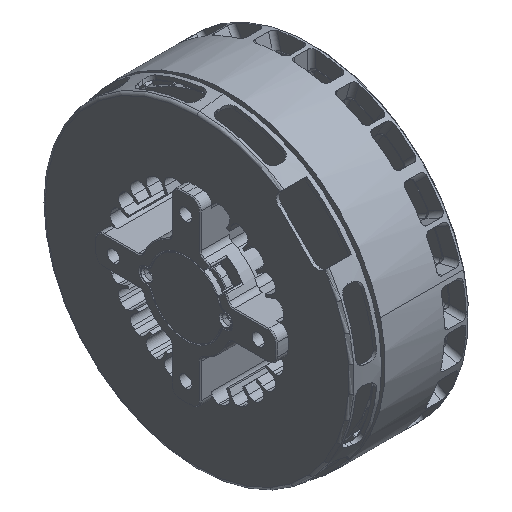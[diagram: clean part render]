
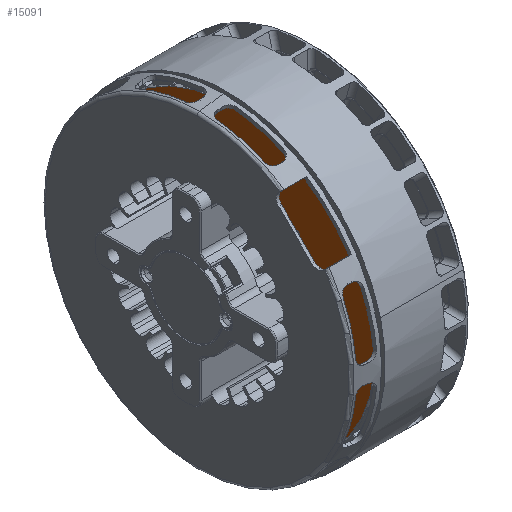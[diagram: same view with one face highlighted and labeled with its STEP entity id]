
A CAD part, isometric view. The second image highlights one B-rep face of the part: STEP entity #15091.
In plain terms, the highlighted planar face has unit normal (-1, 0, 0).
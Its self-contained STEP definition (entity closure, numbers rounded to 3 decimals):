
#1974 = DIRECTION ( 'NONE',  ( 1., 0., 0. ) ) ;
#3487 = CIRCLE ( 'NONE', #132456, 1. ) ;
#3593 = VERTEX_POINT ( 'NONE', #127783 ) ;
#3938 = CIRCLE ( 'NONE', #135246, 50. ) ;
#4117 = EDGE_CURVE ( 'NONE', #118354, #31275, #10883, .T. ) ;
#4432 = DIRECTION ( 'NONE',  ( 0., -0.707, -0.707 ) ) ;
#4865 = DIRECTION ( 'NONE',  ( -1., 0., 0. ) ) ;
#5597 = DIRECTION ( 'NONE',  ( 0., -0.707, -0.707 ) ) ;
#6307 = CARTESIAN_POINT ( 'NONE',  ( 15.4, 0., 0. ) ) ;
#7044 = CIRCLE ( 'NONE', #25131, 1. ) ;
#8869 = CARTESIAN_POINT ( 'NONE',  ( 15.4, 22.981, -22.981 ) ) ;
#10883 = CIRCLE ( 'NONE', #85604, 1. ) ;
#11166 = ORIENTED_EDGE ( 'NONE', *, *, #95229, .T. ) ;
#12491 = CARTESIAN_POINT ( 'NONE',  ( 15.4, 0., 33. ) ) ;
#12620 = CIRCLE ( 'NONE', #62408, 50. ) ;
#13866 = AXIS2_PLACEMENT_3D ( 'NONE', #92087, #70791, #82842 ) ;
#15091 = ADVANCED_FACE ( 'NONE', ( #39528, #59464 ), #102665, .F. ) ;
#18276 = CARTESIAN_POINT ( 'NONE',  ( 15.4, -23.943, 22.709 ) ) ;
#20325 = CARTESIAN_POINT ( 'NONE',  ( 15.4, 0., 0. ) ) ;
#22692 = CARTESIAN_POINT ( 'NONE',  ( 15.4, -22.981, 23.981 ) ) ;
#23342 = DIRECTION ( 'NONE',  ( -1., 0., 0. ) ) ;
#24944 = EDGE_CURVE ( 'NONE', #33446, #3593, #3938, .T. ) ;
#25131 = AXIS2_PLACEMENT_3D ( 'NONE', #112164, #122104, #4432 ) ;
#25969 = VERTEX_POINT ( 'NONE', #22692 ) ;
#27986 = DIRECTION ( 'NONE',  ( 0., -0.707, -0.707 ) ) ;
#28230 = ORIENTED_EDGE ( 'NONE', *, *, #4117, .T. ) ;
#29425 = DIRECTION ( 'NONE',  ( 0., -0.707, -0.707 ) ) ;
#31275 = VERTEX_POINT ( 'NONE', #75121 ) ;
#33362 = CARTESIAN_POINT ( 'NONE',  ( 15.4, 22.709, -23.943 ) ) ;
#33446 = VERTEX_POINT ( 'NONE', #64250 ) ;
#35720 = VERTEX_POINT ( 'NONE', #18276 ) ;
#36070 = DIRECTION ( 'NONE',  ( 1., 0., 0. ) ) ;
#36919 = ORIENTED_EDGE ( 'NONE', *, *, #62207, .F. ) ;
#39122 = AXIS2_PLACEMENT_3D ( 'NONE', #123915, #4865, #48075 ) ;
#39347 = DIRECTION ( 'NONE',  ( 1., 0., 0. ) ) ;
#39528 = FACE_OUTER_BOUND ( 'NONE', #42705, .T. ) ;
#42490 = EDGE_CURVE ( 'NONE', #49808, #53937, #129015, .T. ) ;
#42705 = EDGE_LOOP ( 'NONE', ( #54267, #36919 ) ) ;
#43080 = CIRCLE ( 'NONE', #67987, 33. ) ;
#47837 = DIRECTION ( 'NONE',  ( 1., 0., 0. ) ) ;
#48075 = DIRECTION ( 'NONE',  ( 0., 0., 1. ) ) ;
#49232 = CARTESIAN_POINT ( 'NONE',  ( 15.4, -22.981, 22.981 ) ) ;
#49808 = VERTEX_POINT ( 'NONE', #78426 ) ;
#50271 = CIRCLE ( 'NONE', #91112, 33. ) ;
#53937 = VERTEX_POINT ( 'NONE', #12491 ) ;
#54267 = ORIENTED_EDGE ( 'NONE', *, *, #24944, .F. ) ;
#57926 = DIRECTION ( 'NONE',  ( 0., -0.707, -0.707 ) ) ;
#59464 = FACE_BOUND ( 'NONE', #104397, .T. ) ;
#60232 = CARTESIAN_POINT ( 'NONE',  ( 15.4, 0., -33. ) ) ;
#60571 = CARTESIAN_POINT ( 'NONE',  ( 15.4, 0., 0. ) ) ;
#62207 = EDGE_CURVE ( 'NONE', #3593, #33446, #12620, .T. ) ;
#62408 = AXIS2_PLACEMENT_3D ( 'NONE', #123816, #78540, #111074 ) ;
#64250 = CARTESIAN_POINT ( 'NONE',  ( 15.4, 35.355, 35.355 ) ) ;
#65436 = ORIENTED_EDGE ( 'NONE', *, *, #80674, .F. ) ;
#65890 = CARTESIAN_POINT ( 'NONE',  ( 15.4, 0., 0. ) ) ;
#67604 = CARTESIAN_POINT ( 'NONE',  ( 15.4, 23.943, -22.709 ) ) ;
#67987 = AXIS2_PLACEMENT_3D ( 'NONE', #65890, #23342, #90685 ) ;
#70780 = VERTEX_POINT ( 'NONE', #60232 ) ;
#70791 = DIRECTION ( 'NONE',  ( 1., 0., 0. ) ) ;
#73301 = EDGE_CURVE ( 'NONE', #25969, #35720, #81758, .T. ) ;
#73758 = EDGE_CURVE ( 'NONE', #49808, #25969, #7044, .T. ) ;
#75121 = CARTESIAN_POINT ( 'NONE',  ( 15.4, 22.981, -23.981 ) ) ;
#77055 = DIRECTION ( 'NONE',  ( -1., 0., 0. ) ) ;
#77808 = ORIENTED_EDGE ( 'NONE', *, *, #127232, .F. ) ;
#78426 = CARTESIAN_POINT ( 'NONE',  ( 15.4, -22.709, 23.943 ) ) ;
#78540 = DIRECTION ( 'NONE',  ( 1., 0., 0. ) ) ;
#79892 = EDGE_CURVE ( 'NONE', #70780, #35720, #50271, .T. ) ;
#80674 = EDGE_CURVE ( 'NONE', #118354, #70780, #86763, .T. ) ;
#81758 = CIRCLE ( 'NONE', #122471, 1. ) ;
#81890 = DIRECTION ( 'NONE',  ( -1., 0., 0. ) ) ;
#82568 = DIRECTION ( 'NONE',  ( 0., 0., 1. ) ) ;
#82842 = DIRECTION ( 'NONE',  ( 0., 1., 0. ) ) ;
#84638 = VERTEX_POINT ( 'NONE', #67604 ) ;
#85604 = AXIS2_PLACEMENT_3D ( 'NONE', #122404, #1974, #57926 ) ;
#86763 = CIRCLE ( 'NONE', #39122, 33. ) ;
#86996 = DIRECTION ( 'NONE',  ( 0., 0., 1. ) ) ;
#89712 = ORIENTED_EDGE ( 'NONE', *, *, #42490, .F. ) ;
#90685 = DIRECTION ( 'NONE',  ( 0., 0., 1. ) ) ;
#91112 = AXIS2_PLACEMENT_3D ( 'NONE', #20325, #77055, #86996 ) ;
#92087 = CARTESIAN_POINT ( 'NONE',  ( 15.4, 27.642, -23.683 ) ) ;
#95229 = EDGE_CURVE ( 'NONE', #31275, #84638, #3487, .T. ) ;
#102665 = PLANE ( 'NONE',  #13866 ) ;
#104397 = EDGE_LOOP ( 'NONE', ( #131255, #134184, #65436, #28230, #11166, #77808, #89712, #125835 ) ) ;
#106379 = AXIS2_PLACEMENT_3D ( 'NONE', #60571, #81890, #82568 ) ;
#111074 = DIRECTION ( 'NONE',  ( 0., -0.707, -0.707 ) ) ;
#112164 = CARTESIAN_POINT ( 'NONE',  ( 15.4, -22.981, 22.981 ) ) ;
#118354 = VERTEX_POINT ( 'NONE', #33362 ) ;
#122104 = DIRECTION ( 'NONE',  ( 1., 0., 0. ) ) ;
#122404 = CARTESIAN_POINT ( 'NONE',  ( 15.4, 22.981, -22.981 ) ) ;
#122471 = AXIS2_PLACEMENT_3D ( 'NONE', #49232, #47837, #27986 ) ;
#123816 = CARTESIAN_POINT ( 'NONE',  ( 15.4, 0., 0. ) ) ;
#123915 = CARTESIAN_POINT ( 'NONE',  ( 15.4, 0., 0. ) ) ;
#125835 = ORIENTED_EDGE ( 'NONE', *, *, #73758, .T. ) ;
#127232 = EDGE_CURVE ( 'NONE', #53937, #84638, #43080, .T. ) ;
#127783 = CARTESIAN_POINT ( 'NONE',  ( 15.4, -35.355, -35.355 ) ) ;
#129015 = CIRCLE ( 'NONE', #106379, 33. ) ;
#131255 = ORIENTED_EDGE ( 'NONE', *, *, #73301, .T. ) ;
#132456 = AXIS2_PLACEMENT_3D ( 'NONE', #8869, #39347, #29425 ) ;
#134184 = ORIENTED_EDGE ( 'NONE', *, *, #79892, .F. ) ;
#135246 = AXIS2_PLACEMENT_3D ( 'NONE', #6307, #36070, #5597 ) ;
